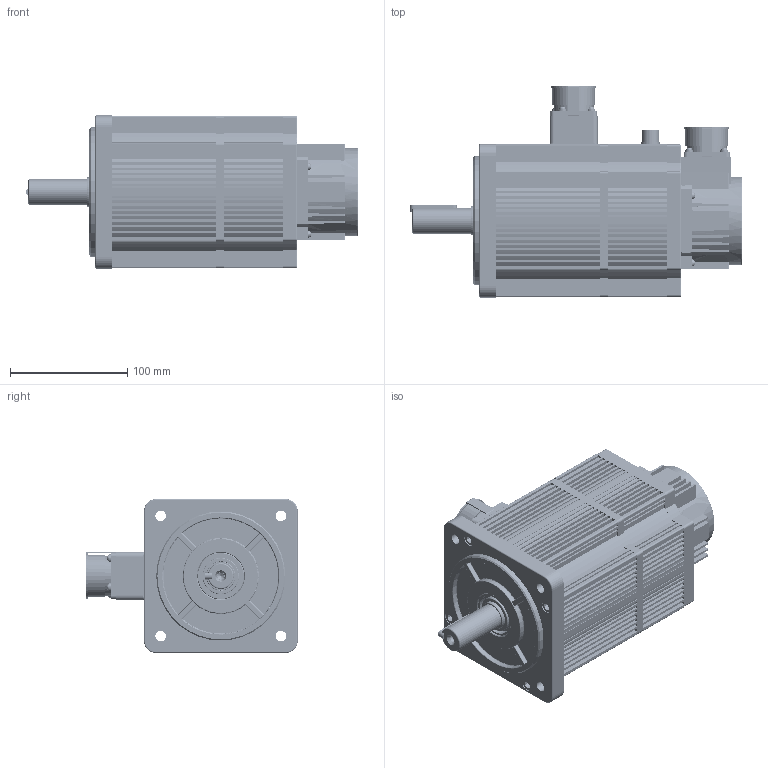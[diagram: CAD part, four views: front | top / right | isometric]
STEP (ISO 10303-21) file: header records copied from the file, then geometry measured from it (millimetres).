
FILE_DESCRIPTION (( 'STEP AP203' ), '1' );
FILE_NAME ('K1-130蚾饜 4Nm 惕掅.STEP', '2020-01-04T07:46:51', ( 'gs' ), ( 'Microsoft' ), 'SwSTEP 2.0', 'SolidWorks 2019', '' );
FILE_SCHEMA (( 'CONFIG_CONTROL_DESIGN' ));
Length unit declared in the file: millimetre
Products named in the file (29): K1-130机壳加工后 抱闸 7.7Nm以下; K1-130す瑩; K1-130 O型密封圈变形后; K1-130誘欶躇猾菜; K1-130儂褲樓馱綴 4Nm; curved single coil spring lock washers gb_GB_FASTENER_WASHER_CSLW 4; K1-130綴傷裔 惕掅( 7.7Nm眕狟); K1-130盄簽砎蝶菜; M3X8囀鞠褒; K1-130蛌赽郪璃 4Nm 惕掅; K1-130ヶ傷裔 譙跡; M6X20; M3X12啋儂; K1-130隅赽郪璃 4Nm; K1-110晤鎢ん誘欶; M3X8啋儂; K1-130瑤脣 惕掅(10Nm眕奻); M6粟菜; M3す菜; K1-130諉盄釱; M6X70; K1-130粣 4Nm 惕掅; K1-130瑤脣雄薯盄; K1-130密封圈; K1-130瑤脣砎蝶菜; K1-130綴傷裔 陬諾; M4X16啋儂; K1-130瑤脣15郋; K1-130蚾饜 4Nm 惕掅
Assembly tree (82 placements, depth 3):
  K1-130蚾饜 4Nm 惕掅
    K1-130隅赽郪璃 4Nm
      K1-130儂褲樓馱綴 4Nm
    K1-130ヶ傷裔 譙跡
    K1-130綴傷裔 惕掅( 7.7Nm眕狟)
    K1-110晤鎢ん誘欶
    K1-130密封圈
    K1-130誘欶躇猾菜
    curved single coil spring lock washers gb_GB_FASTENER_WASHER_CSLW 4  x17
    M3X8囀鞠褒
    M3す菜  x13
    M6粟菜  x7
    M6X20  x4
    K1-130盄簽砎蝶菜  x2
    K1-130瑤脣15郋
    M3X12啋儂  x8
    K1-130す瑩
    K1-130瑤脣砎蝶菜
    K1-130諉盄釱
    M3X8啋儂  x4
    K1-130 O型密封圈变形后  x2
    M4X16啋儂  x4
    K1-130瑤脣雄薯盄
    K1-130机壳加工后 抱闸 7.7Nm以下
    K1-130綴傷裔 陬諾
    K1-130蛌赽郪璃 4Nm 惕掅
      K1-130粣 4Nm 惕掅
    M6X70  x3
    K1-130瑤脣 惕掅(10Nm眕奻)
Bounding box: 283 x 180.1 x 131 mm (x, y, z)
Volume: 1061742.9 mm3; surface area: 524756.4 mm2
Topology: 82 solids, 84 shells, 4199 faces, 11377 edges, 7485 vertices
Faces by surface type: cylinder 2426, plane 1447, bspline 166, cone 88, torus 72
Entity records: 146143 total; most frequent: CARTESIAN_POINT 76244, ORIENTED_EDGE 14944, DIRECTION 12453, EDGE_CURVE 7472, VERTEX_POINT 4907, AXIS2_PLACEMENT_3D 4256, LINE 3941, VECTOR 3941
